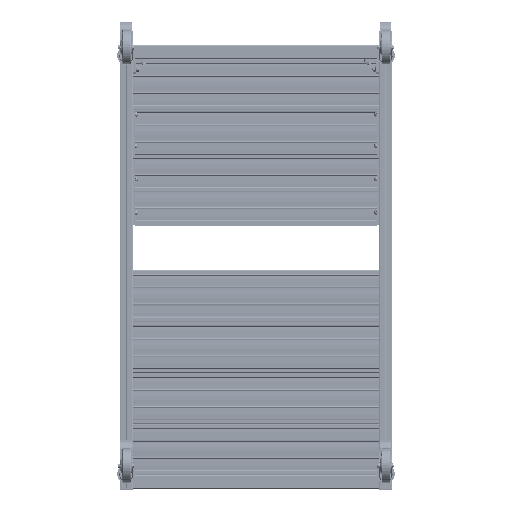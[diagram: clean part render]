
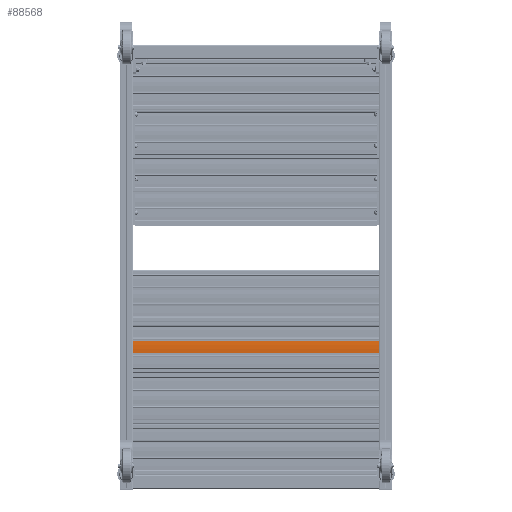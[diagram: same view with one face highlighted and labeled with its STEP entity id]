
A CAD part, front view. The second image highlights one B-rep face of the part: STEP entity #88568.
In plain terms, the highlighted cylindrical face has radius 180.45 mm (diameter 360.9 mm), a partial arc.
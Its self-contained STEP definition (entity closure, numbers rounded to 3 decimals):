
#1098 = AXIS2_PLACEMENT_3D ( 'NONE', #25918, #163151, #131389 ) ;
#2174 = VERTEX_POINT ( 'NONE', #141783 ) ;
#3996 = VECTOR ( 'NONE', #100928, 1000. ) ;
#9605 = ORIENTED_EDGE ( 'NONE', *, *, #170076, .F. ) ;
#25918 = CARTESIAN_POINT ( 'NONE',  ( 1., 195.085, 360. ) ) ;
#29530 = VERTEX_POINT ( 'NONE', #119124 ) ;
#34754 = CARTESIAN_POINT ( 'NONE',  ( 19., 15.535, 360. ) ) ;
#61653 = LINE ( 'NONE', #91292, #156543 ) ;
#65358 = CARTESIAN_POINT ( 'NONE',  ( 1., 195.085, 360. ) ) ;
#68239 = DIRECTION ( 'NONE',  ( 1., 0., 0. ) ) ;
#72273 = CARTESIAN_POINT ( 'NONE',  ( 19., 15.535, 360. ) ) ;
#78130 = VERTEX_POINT ( 'NONE', #163091 ) ;
#79486 = EDGE_CURVE ( 'NONE', #103276, #78130, #88608, .T. ) ;
#80678 = FACE_OUTER_BOUND ( 'NONE', #128280, .T. ) ;
#82543 = CARTESIAN_POINT ( 'NONE',  ( 1., 195.085, -360. ) ) ;
#88568 = ADVANCED_FACE ( 'NONE', ( #80678 ), #159492, .T. ) ;
#88608 = LINE ( 'NONE', #72273, #3996 ) ;
#91292 = CARTESIAN_POINT ( 'NONE',  ( -17., 15.535, 360. ) ) ;
#93457 = AXIS2_PLACEMENT_3D ( 'NONE', #82543, #143980, #68239 ) ;
#100928 = DIRECTION ( 'NONE',  ( 0., 0., -1. ) ) ;
#103276 = VERTEX_POINT ( 'NONE', #34754 ) ;
#105798 = CIRCLE ( 'NONE', #1098, 180.45 ) ;
#119124 = CARTESIAN_POINT ( 'NONE',  ( -17., 15.535, 360. ) ) ;
#119626 = AXIS2_PLACEMENT_3D ( 'NONE', #65358, #189182, #127715 ) ;
#121966 = DIRECTION ( 'NONE',  ( 0., 0., -1. ) ) ;
#127715 = DIRECTION ( 'NONE',  ( -1., 0., 0. ) ) ;
#128280 = EDGE_LOOP ( 'NONE', ( #131913, #144321, #9605, #180760 ) ) ;
#131389 = DIRECTION ( 'NONE',  ( 1., 0., 0. ) ) ;
#131913 = ORIENTED_EDGE ( 'NONE', *, *, #191902, .T. ) ;
#141783 = CARTESIAN_POINT ( 'NONE',  ( -17., 15.535, -360. ) ) ;
#143980 = DIRECTION ( 'NONE',  ( 0., 0., 1. ) ) ;
#144321 = ORIENTED_EDGE ( 'NONE', *, *, #79486, .F. ) ;
#155199 = EDGE_CURVE ( 'NONE', #29530, #2174, #61653, .T. ) ;
#156543 = VECTOR ( 'NONE', #121966, 1000. ) ;
#159492 = CYLINDRICAL_SURFACE ( 'NONE', #119626, 180.45 ) ;
#163091 = CARTESIAN_POINT ( 'NONE',  ( 19., 15.535, -360. ) ) ;
#163151 = DIRECTION ( 'NONE',  ( 0., 0., 1. ) ) ;
#165208 = CIRCLE ( 'NONE', #93457, 180.45 ) ;
#170076 = EDGE_CURVE ( 'NONE', #29530, #103276, #105798, .T. ) ;
#180760 = ORIENTED_EDGE ( 'NONE', *, *, #155199, .T. ) ;
#189182 = DIRECTION ( 'NONE',  ( 0., 0., -1. ) ) ;
#191902 = EDGE_CURVE ( 'NONE', #2174, #78130, #165208, .T. ) ;
